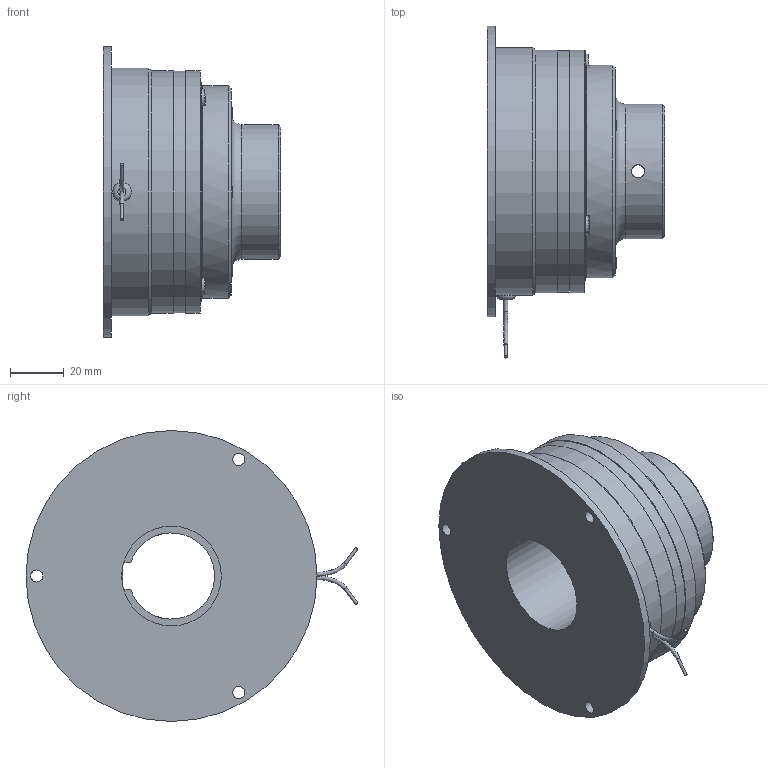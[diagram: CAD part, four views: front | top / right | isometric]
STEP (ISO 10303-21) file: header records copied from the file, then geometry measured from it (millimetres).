
FILE_DESCRIPTION(/* description */ (''),/* implementation_level */ '2;1');
FILE_NAME(/* name */ 'X:\INVENTOR\DISEGNI\08_Freni_Friz_Elettmag_Monodisco\08_28 EMFL_DF\EMFL_DF STEP\08_28_090_12 EMFL090_DF-C-ME@STEP.stp',/* time_stamp */ '2018-04-23T10:43:40+02:00',/* author */ ('stefano'),/* organization */ (''),/* preprocessor_version */ 'ST-DEVELOPER v17',/* originating_system */ 'Autodesk Inventor 2018',/* authorisation */ '');
FILE_SCHEMA (('AUTOMOTIVE_DESIGN { 1 0 10303 214 3 1 1 }'));
Length unit declared in the file: millimetre
Products named in the file (1): 08_28_090_12 EMFL090_DF-C-ME_Substitute_1
Bounding box: 66 x 123.22 x 108 mm (x, y, z)
Volume: 247721.4 mm3; surface area: 60939.9 mm2
Topology: 3 solids, 3 shells, 241 faces, 684 edges, 466 vertices
Faces by surface type: cylinder 130, plane 82, cone 22, torus 5, bspline 2
Full cylindrical faces by diameter (mm): 1.154 x2, 1.5 x4, 4.5 x3, 4.917 x2, 5 x3, 5.1 x6, 6 x1, 7 x3, 8 x3, 9.5 x3, 37 x2, 50 x1, 54 x1, 79 x1, 80 x1, 89.8 x1, 90 x2, 92 x1, 108 x1
Entity records: 8875 total; most frequent: CARTESIAN_POINT 1809, DIRECTION 1556, ORIENTED_EDGE 1364, EDGE_CURVE 682, AXIS2_PLACEMENT_3D 677, VERTEX_POINT 467, CIRCLE 437, EDGE_LOOP 308
